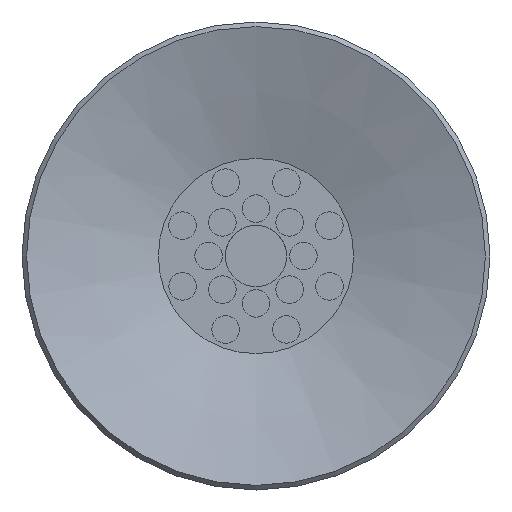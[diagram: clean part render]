
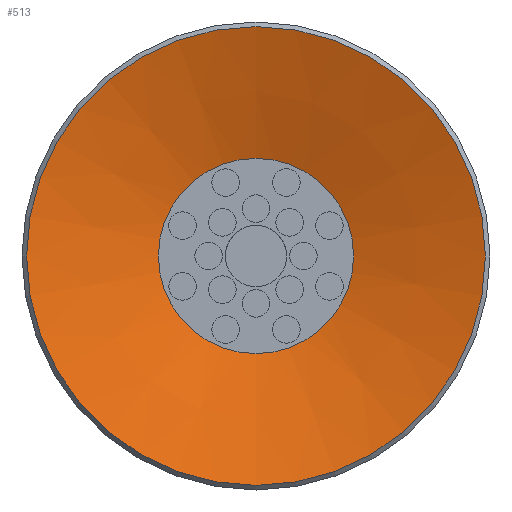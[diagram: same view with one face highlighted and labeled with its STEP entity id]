
A CAD part, front view. The second image highlights one B-rep face of the part: STEP entity #513.
In plain terms, the highlighted conical face has half-angle 72 degrees and reference radius 7.5 mm.
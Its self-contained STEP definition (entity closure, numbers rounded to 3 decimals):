
#513=ADVANCED_FACE('',(#842,#843),#844,.F.);
#842=FACE_BOUND('',#1204,.T.);
#843=FACE_OUTER_BOUND('',#1205,.T.);
#844=CONICAL_SURFACE('',#1206,7.5,1.257);
#1204=EDGE_LOOP('',(#1989));
#1205=EDGE_LOOP('',(#1990));
#1206=AXIS2_PLACEMENT_3D('',#1991,#1992,#1993);
#1989=ORIENTED_EDGE('',*,*,#2262,.T.);
#1990=ORIENTED_EDGE('',*,*,#2268,.F.);
#1991=CARTESIAN_POINT('',(0.0,0.,0.));
#1992=DIRECTION('',(0.0,0.,-1.0));
#1993=DIRECTION('',(0.0,1.0,0.));
#2262=EDGE_CURVE('',#2596,#2596,#2597,.T.);
#2268=EDGE_CURVE('',#2608,#2608,#2609,.T.);
#2596=VERTEX_POINT('',#3350);
#2597=CIRCLE('',#3351,3.191);
#2608=VERTEX_POINT('',#3362);
#2609=CIRCLE('',#3363,7.5);
#3350=CARTESIAN_POINT('',(0.0,-3.191,1.4));
#3351=AXIS2_PLACEMENT_3D('',#3700,#3701,#3702);
#3362=CARTESIAN_POINT('',(0.0,-7.5,0.));
#3363=AXIS2_PLACEMENT_3D('',#3718,#3719,#3720);
#3700=CARTESIAN_POINT('',(0.0,0.,1.4));
#3701=DIRECTION('',(0.0,0.,1.0));
#3702=DIRECTION('',(0.0,-1.0,0.));
#3718=CARTESIAN_POINT('',(0.0,0.,0.));
#3719=DIRECTION('',(0.0,0.,1.0));
#3720=DIRECTION('',(0.0,-1.0,0.));
